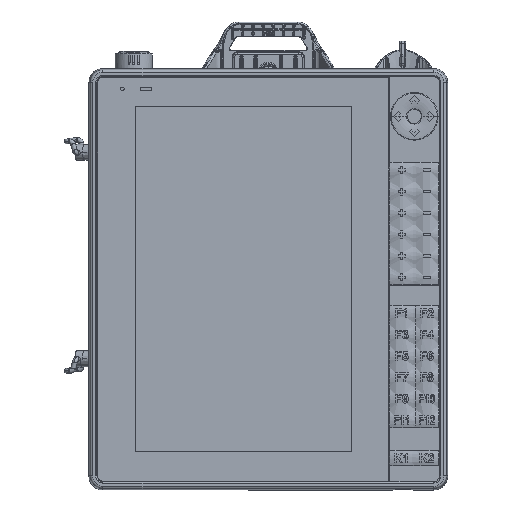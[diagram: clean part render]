
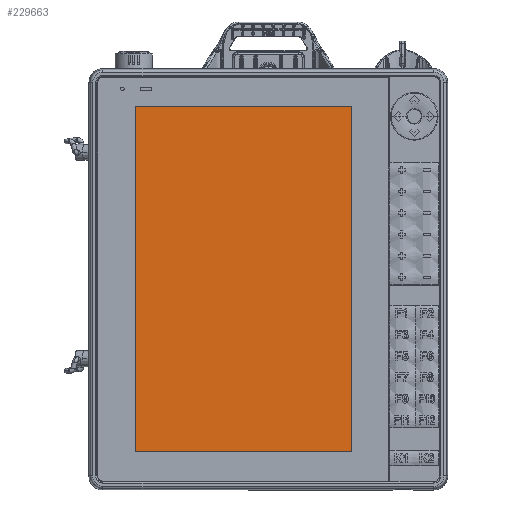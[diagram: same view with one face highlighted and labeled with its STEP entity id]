
A CAD part, top view. The second image highlights one B-rep face of the part: STEP entity #229663.
In plain terms, the highlighted planar face has unit normal (0, 0, 1).
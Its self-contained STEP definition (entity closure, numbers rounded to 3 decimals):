
#221 = DIRECTION ( 'NONE',  ( -1., 0., 0. ) ) ;
#11136 = AXIS2_PLACEMENT_3D ( 'NONE', #100151, #181339, #221 ) ;
#12864 = EDGE_LOOP ( 'NONE', ( #61153, #85064, #232367, #95166 ) ) ;
#23177 = DIRECTION ( 'NONE',  ( 0., 1., 0. ) ) ;
#41889 = CARTESIAN_POINT ( 'NONE',  ( -61.257, 144.311, 1030.4 ) ) ;
#43139 = CARTESIAN_POINT ( 'NONE',  ( -197.457, 35.531, 1030.4 ) ) ;
#43815 = VERTEX_POINT ( 'NONE', #41889 ) ;
#55351 = LINE ( 'NONE', #99273, #200718 ) ;
#61153 = ORIENTED_EDGE ( 'NONE', *, *, #106614, .F. ) ;
#65106 = FACE_OUTER_BOUND ( 'NONE', #12864, .T. ) ;
#66800 = LINE ( 'NONE', #88100, #201809 ) ;
#80185 = VERTEX_POINT ( 'NONE', #140467 ) ;
#85064 = ORIENTED_EDGE ( 'NONE', *, *, #216012, .F. ) ;
#88100 = CARTESIAN_POINT ( 'NONE',  ( -61.257, 35.531, 1030.4 ) ) ;
#95166 = ORIENTED_EDGE ( 'NONE', *, *, #136765, .F. ) ;
#99273 = CARTESIAN_POINT ( 'NONE',  ( -113.457, 144.311, 1030.4 ) ) ;
#100151 = CARTESIAN_POINT ( 'NONE',  ( -113.457, 35.531, 1030.4 ) ) ;
#106614 = EDGE_CURVE ( 'NONE', #43815, #167646, #66800, .T. ) ;
#114804 = LINE ( 'NONE', #136140, #183195 ) ;
#116215 = PLANE ( 'NONE',  #11136 ) ;
#136140 = CARTESIAN_POINT ( 'NONE',  ( -113.457, -73.249, 1030.4 ) ) ;
#136765 = EDGE_CURVE ( 'NONE', #167646, #80185, #114804, .T. ) ;
#140467 = CARTESIAN_POINT ( 'NONE',  ( -197.457, -73.249, 1030.4 ) ) ;
#156564 = DIRECTION ( 'NONE',  ( 1., 0., 0. ) ) ;
#167646 = VERTEX_POINT ( 'NONE', #195085 ) ;
#167936 = EDGE_CURVE ( 'NONE', #80185, #217464, #225539, .T. ) ;
#181339 = DIRECTION ( 'NONE',  ( 0., 0., -1. ) ) ;
#183195 = VECTOR ( 'NONE', #183888, 1000. ) ;
#183888 = DIRECTION ( 'NONE',  ( -1., 0., 0. ) ) ;
#195085 = CARTESIAN_POINT ( 'NONE',  ( -61.257, -73.249, 1030.4 ) ) ;
#200718 = VECTOR ( 'NONE', #156564, 1000. ) ;
#201809 = VECTOR ( 'NONE', #211914, 1000. ) ;
#211914 = DIRECTION ( 'NONE',  ( 0., -1., 0. ) ) ;
#216012 = EDGE_CURVE ( 'NONE', #217464, #43815, #55351, .T. ) ;
#217464 = VERTEX_POINT ( 'NONE', #222255 ) ;
#222255 = CARTESIAN_POINT ( 'NONE',  ( -197.457, 144.311, 1030.4 ) ) ;
#225539 = LINE ( 'NONE', #43139, #260050 ) ;
#229663 = ADVANCED_FACE ( 'NONE', ( #65106 ), #116215, .F. ) ;
#232367 = ORIENTED_EDGE ( 'NONE', *, *, #167936, .F. ) ;
#260050 = VECTOR ( 'NONE', #23177, 1000. ) ;
